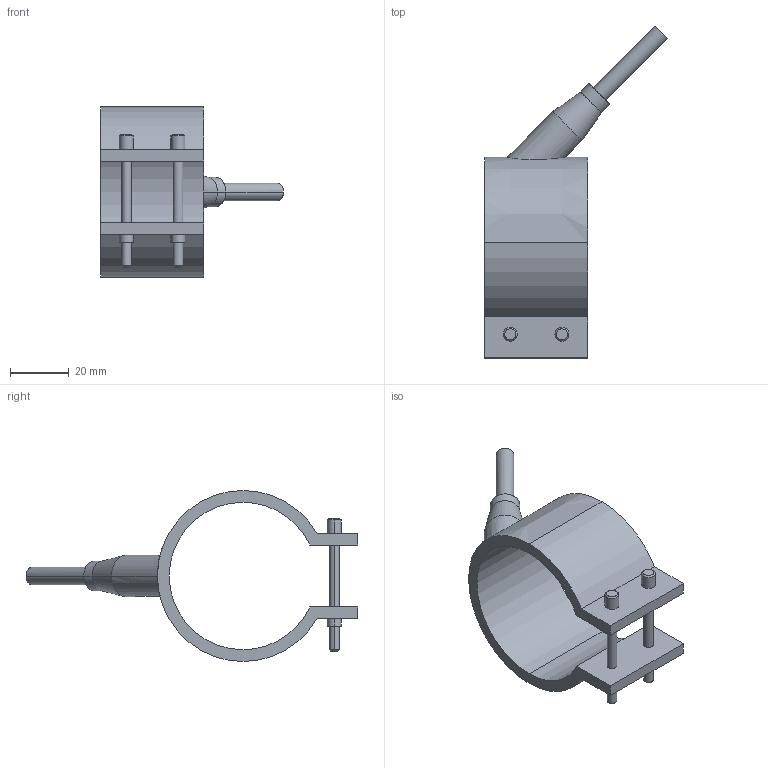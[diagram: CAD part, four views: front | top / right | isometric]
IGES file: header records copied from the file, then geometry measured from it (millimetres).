
Start section: START RECORD GO HERE.
Global section: file name: 29050035.igs; native system: DASSAULT SYSTEMES CATIA V5 R20 - www.3ds.com; preprocessor: CATIA Version 5 Release 20 ; author: Utente; organization: NB04-ASUS; date: 20210327.103100; units: millimetre
Bounding box: 62.05 x 112.55 x 58 mm (x, y, z)
Surface area: 16293.7 mm2 (no closed solid volume)
Topology: 0 solids, 0 shells, 54 faces, 248 edges, 248 vertices
Faces by surface type: revolution 38, plane 16
